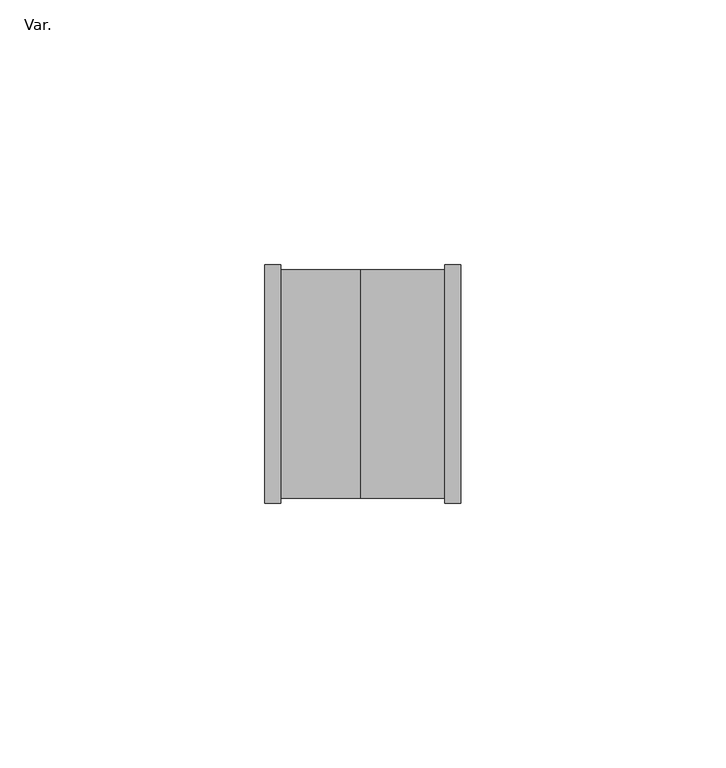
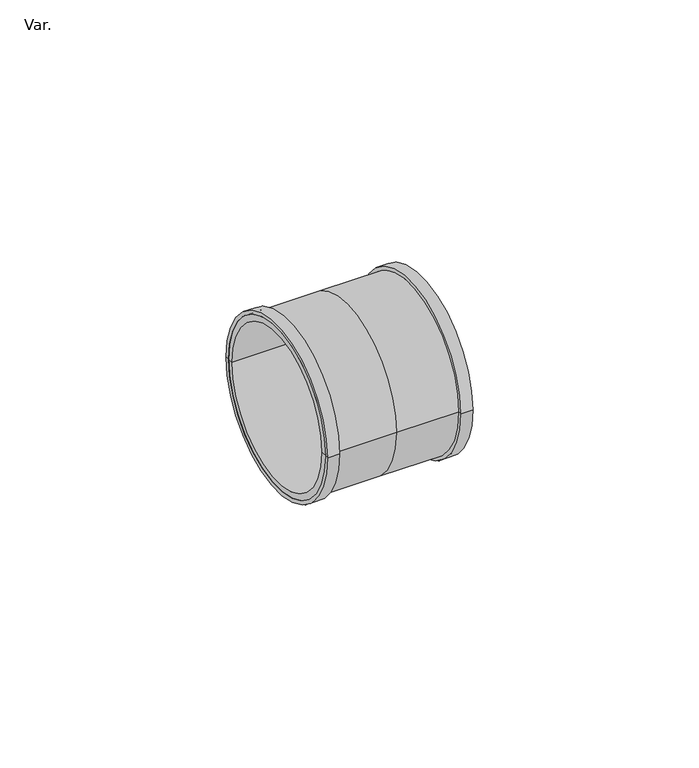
"""IFC4 building model written with IfcOpenShell, lengths in millimetres: pipe fitting geometry, AmancoWavin_ConexõesdeTubos_EsgotoZNãoUsarLuvaSimple : Var.."""

from ifc_helpers import new_model, si_unit, frame, origin, place, context, project, spatial, polyline, circle_curve, source, transform, mapped, element, save
from ifc_brep_helpers import plane_surface, cylinder_surface, revolved_surface, advanced_brep


def var_40b4b024(model_context):
    return source(origin(), model_context, "Body", "AdvancedBrep", [
        advanced_brep(
        [(-15.0, -22.5, 0.0), (-15.0, 22.5, 0.0), (-15.0, 21.6, 0.0), (-15.0, -21.6, 0.0), (-18.0, -22.5, 0.0), (-18.0, 22.5, 0.0), (-18.0, -21.6, 0.0), (-18.0, 21.6, 0.0)],
        [
            (0, 1, circle_curve(frame((-15.0, 0.0, 0.0), z_axis=(1.0, 0.0, 0.0), x_axis=(0.0, 1.0, 0.0)), 22.5)),
            (1, 2),
            (2, 3, circle_curve(frame((-15.0, 0.0, 0.0), z_axis=(-1.0, 0.0, 0.0), x_axis=(0.0, 1.0, 0.0)), 21.6)),
            (3, 0),
            (1, 0, circle_curve(frame((-15.0, 0.0, 0.0), z_axis=(1.0, 0.0, 0.0), x_axis=(0.0, 1.0, 0.0)), 22.5)),
            (3, 2, circle_curve(frame((-15.0, 0.0, 0.0), z_axis=(-1.0, 0.0, 0.0), x_axis=(0.0, 1.0, 0.0)), 21.6)),
            (4, 5, circle_curve(frame((-18.0, 0.0, 0.0), z_axis=(1.0, 0.0, 0.0), x_axis=(0.0, 1.0, 0.0)), 22.5)),
            (5, 1),
            (0, 4),
            (5, 4, circle_curve(frame((-18.0, 0.0, 0.0), z_axis=(1.0, 0.0, 0.0), x_axis=(0.0, 1.0, 0.0)), 22.5)),
            (6, 7, circle_curve(frame((-18.0, 0.0, 0.0), z_axis=(1.0, 0.0, 0.0), x_axis=(0.0, 1.0, 0.0)), 21.6)),
            (7, 5),
            (4, 6),
            (7, 6, circle_curve(frame((-18.0, 0.0, 0.0), z_axis=(1.0, 0.0, 0.0), x_axis=(0.0, 1.0, 0.0)), 21.6)),
            (2, 7),
            (6, 3),
        ],
        [
            plane_surface(frame((-15.0, 0.0, 0.0), z_axis=(1.0, 0.0, 0.0), x_axis=(0.0, 1.0, 0.0))),
            cylinder_surface(frame((2000.0, 0.0, 0.0), z_axis=(-1.0, 0.0, 0.0), x_axis=(0.0, 1.0, 0.0)), 22.5),
            plane_surface(frame((-18.0, 0.0, 0.0), z_axis=(-1.0, 0.0, 0.0), x_axis=(0.0, 1.0, 0.0))),
            revolved_surface(polyline([(-18.0, 21.6, 0.0), (-15.0, 21.6, 0.0)]), (2000.0, 0.0, 0.0), (-1.0, 0.0, 0.0)),
        ],
        [
            (0, [[1, 2, 3, 4]]),
            (0, [[5, -4, 6, -2]]),
            (1, [[7, 8, -1, 9]]),
            (1, [[10, -9, -5, -8]]),
            (2, [[11, 12, -7, 13]]),
            (2, [[14, -13, -10, -12]]),
            (3, [[-3, 15, -11, 16]]),
            (3, [[-6, -16, -14, -15]]),
        ],
    ),
        advanced_brep(
        [(-18.0, -21.6, 0.0), (-18.0, 21.6, 0.0), (0.0, 21.6, 0.0), (0.0, -21.6, 0.0), (-18.0, -20.0, 0.0), (-18.0, 20.0, 0.0), (0.0, -20.0, 0.0), (0.0, 20.0, 0.0), (0.0, 0.0, 0.0), (1.0, -20.0, 0.0), (1.0, 20.0, 0.0), (1.0, 0.0, 0.0), (19.0, -22.5, 0.0), (19.0, 22.5, 0.0), (19.0, 20.0, 0.0), (19.0, -20.0, 0.0), (16.0, -22.5, 0.0), (16.0, 22.5, 0.0), (16.0, -21.6, 0.0), (16.0, 21.6, 0.0)],
        [
            (0, 1, circle_curve(frame((-18.0, 0.0, 0.0), z_axis=(1.0, 0.0, 0.0), x_axis=(0.0, 1.0, 0.0)), 21.6)),
            (1, 2),
            (2, 3, circle_curve(frame((0.0, 0.0, 0.0), z_axis=(-1.0, 0.0, 0.0), x_axis=(0.0, 1.0, 0.0)), 21.6)),
            (3, 0),
            (1, 0, circle_curve(frame((-18.0, 0.0, 0.0), z_axis=(1.0, 0.0, 0.0), x_axis=(0.0, 1.0, 0.0)), 21.6)),
            (3, 2, circle_curve(frame((0.0, 0.0, 0.0), z_axis=(-1.0, 0.0, 0.0), x_axis=(0.0, 1.0, 0.0)), 21.6)),
            (4, 5, circle_curve(frame((-18.0, 0.0, 0.0), z_axis=(1.0, 0.0, 0.0), x_axis=(0.0, 1.0, 0.0)), 20.0)),
            (5, 1),
            (0, 4),
            (5, 4, circle_curve(frame((-18.0, 0.0, 0.0), z_axis=(1.0, 0.0, 0.0), x_axis=(0.0, 1.0, 0.0)), 20.0)),
            (6, 7, circle_curve(frame((0.0, 0.0, 0.0), z_axis=(1.0, 0.0, 0.0), x_axis=(0.0, 1.0, 0.0)), 20.0)),
            (7, 5),
            (4, 6),
            (7, 6, circle_curve(frame((0.0, 0.0, 0.0), z_axis=(1.0, 0.0, 0.0), x_axis=(0.0, 1.0, 0.0)), 20.0)),
            (8, 7),
            (6, 8),
            (9, 10, circle_curve(frame((1.0, 0.0, 0.0), z_axis=(1.0, 0.0, 0.0), x_axis=(0.0, 1.0, 0.0)), 20.0)),
            (10, 11),
            (11, 9),
            (10, 9, circle_curve(frame((1.0, 0.0, 0.0), z_axis=(1.0, 0.0, 0.0), x_axis=(0.0, 1.0, 0.0)), 20.0)),
            (12, 13, circle_curve(frame((19.0, 0.0, 0.0), z_axis=(1.0, 0.0, 0.0), x_axis=(0.0, 1.0, 0.0)), 22.5)),
            (13, 14),
            (14, 15, circle_curve(frame((19.0, 0.0, 0.0), z_axis=(-1.0, 0.0, 0.0), x_axis=(0.0, 1.0, 0.0)), 20.0)),
            (15, 12),
            (13, 12, circle_curve(frame((19.0, 0.0, 0.0), z_axis=(1.0, 0.0, 0.0), x_axis=(0.0, 1.0, 0.0)), 22.5)),
            (15, 14, circle_curve(frame((19.0, 0.0, 0.0), z_axis=(-1.0, 0.0, 0.0), x_axis=(0.0, 1.0, 0.0)), 20.0)),
            (16, 17, circle_curve(frame((16.0, 0.0, 0.0), z_axis=(1.0, 0.0, 0.0), x_axis=(0.0, 1.0, 0.0)), 22.5)),
            (17, 13),
            (12, 16),
            (17, 16, circle_curve(frame((16.0, 0.0, 0.0), z_axis=(1.0, 0.0, 0.0), x_axis=(0.0, 1.0, 0.0)), 22.5)),
            (18, 19, circle_curve(frame((16.0, 0.0, 0.0), z_axis=(1.0, 0.0, 0.0), x_axis=(0.0, 1.0, 0.0)), 21.6)),
            (19, 17),
            (16, 18),
            (19, 18, circle_curve(frame((16.0, 0.0, 0.0), z_axis=(1.0, 0.0, 0.0), x_axis=(0.0, 1.0, 0.0)), 21.6)),
            (2, 19),
            (18, 3),
            (14, 10),
            (9, 15),
        ],
        [
            cylinder_surface(frame((1982.0, 0.0, 0.0), z_axis=(-1.0, 0.0, 0.0), x_axis=(0.0, 1.0, 0.0)), 21.6),
            plane_surface(frame((-18.0, 0.0, 0.0), z_axis=(-1.0, 0.0, 0.0), x_axis=(0.0, 1.0, 0.0))),
            revolved_surface(polyline([(-18.0, 20.0, 0.0), (0.0, 20.0, 0.0)]), (1982.0, 0.0, 0.0), (-1.0, 0.0, 0.0)),
            plane_surface(frame((0.0, 0.0, 0.0), z_axis=(-1.0, 0.0, 0.0), x_axis=(0.0, 1.0, 0.0))),
            plane_surface(frame((1.0, 0.0, 0.0), z_axis=(1.0, 0.0, 0.0), x_axis=(0.0, 1.0, 0.0))),
            plane_surface(frame((19.0, 0.0, 0.0), z_axis=(1.0, 0.0, 0.0), x_axis=(0.0, 1.0, 0.0))),
            cylinder_surface(frame((1982.0, 0.0, 0.0), z_axis=(-1.0, 0.0, 0.0), x_axis=(0.0, 1.0, 0.0)), 22.5),
            plane_surface(frame((16.0, 0.0, 0.0), z_axis=(-1.0, 0.0, 0.0), x_axis=(0.0, 1.0, 0.0))),
            revolved_surface(polyline([(1.0, 20.0, 0.0), (19.0, 20.0, 0.0)]), (1982.0, 0.0, 0.0), (-1.0, 0.0, 0.0)),
        ],
        [
            (0, [[1, 2, 3, 4]]),
            (0, [[5, -4, 6, -2]]),
            (1, [[7, 8, -1, 9]]),
            (1, [[10, -9, -5, -8]]),
            (2, [[11, 12, -7, 13]]),
            (2, [[14, -13, -10, -12]]),
            (3, [[15, -11, 16]]),
            (3, [[-16, -14, -15]]),
            (4, [[17, 18, 19]]),
            (4, [[20, -19, -18]]),
            (5, [[21, 22, 23, 24]]),
            (5, [[25, -24, 26, -22]]),
            (6, [[27, 28, -21, 29]]),
            (6, [[30, -29, -25, -28]]),
            (7, [[31, 32, -27, 33]]),
            (7, [[34, -33, -30, -32]]),
            (0, [[-3, 35, -31, 36]]),
            (0, [[-6, -36, -34, -35]]),
            (8, [[-23, 37, -17, 38]]),
            (8, [[-26, -38, -20, -37]]),
        ],
    ),
    ])


if __name__ == "__main__":
    model = new_model("IFC4")
    model_context = context("Model", 3, world=origin())
    ifc_project = project(units=[si_unit("LENGTHUNIT", "METRE", prefix="MILLI")], contexts=[model_context])
    site = spatial("IfcSite", under=ifc_project)
    building = spatial("IfcBuilding", under=site)
    placement = place(None, origin())
    var_shape = var_40b4b024(model_context)
    element("IfcPipeFitting", 1, ObjectType="AmancoWavin_ConexõesdeTubos_EsgotoZNãoUsarLuvaSimple : Var.", at=placement, inside=building, context=model_context, shape_type="MappedRepresentation", body=[
        mapped(var_shape, transform((0.0, 0.0, 0.0), x_axis=(1.0, 0.0, 0.0), y_axis=(0.0, 1.0, 0.0), z_axis=(0.0, 0.0, 1.0))),
    ])
    save(model, "model.ifc")
